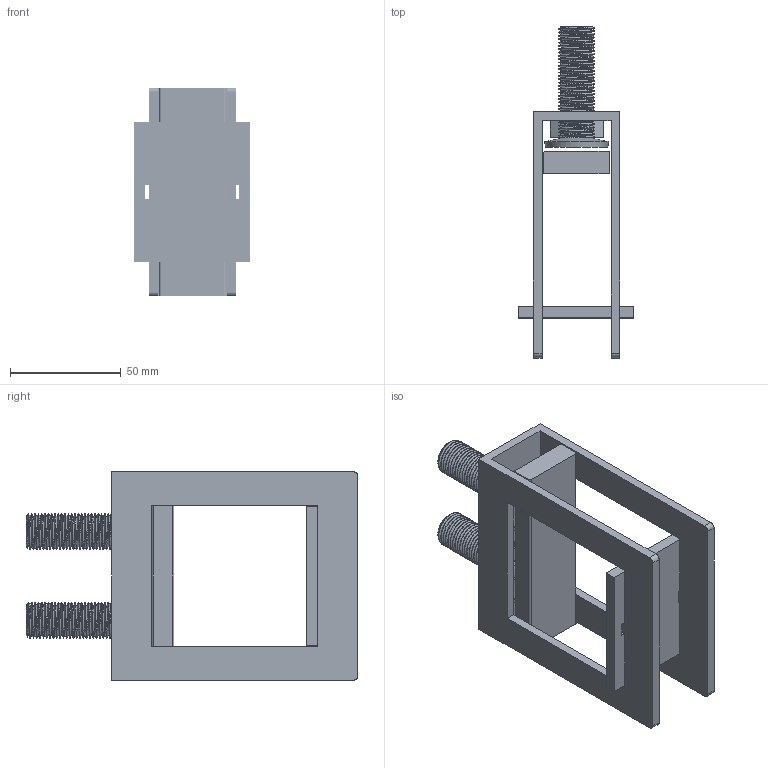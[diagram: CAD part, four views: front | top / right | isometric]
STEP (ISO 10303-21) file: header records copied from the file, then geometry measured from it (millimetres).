
FILE_DESCRIPTION (( 'STEP AP203' ), '1' );
FILE_NAME ('54907.STEP', '2021-08-16T00:50:24', ( '' ), ( '' ), 'SwSTEP 2.0', 'SolidWorks 2017', '' );
FILE_SCHEMA (( 'CONFIG_CONTROL_DESIGN' ));
Products named in the file (2): 54907
Bounding box: 52 x 149.6 x 94 mm (x, y, z)
Volume: 122692.5 mm3; surface area: 64243.4 mm2
Topology: 7 solids, 7 shells, 358 faces, 1210 edges, 874 vertices
Faces by surface type: plane 186, bspline 134, cylinder 20, cone 14, torus 4
Full cylindrical faces by diameter (mm): 8.8 x2, 9.8 x2
Entity records: 54014 total; most frequent: CARTESIAN_POINT 44828, ORIENTED_EDGE 2356, EDGE_CURVE 1178, DIRECTION 1103, VERTEX_POINT 862, B_SPLINE_CURVE_WITH_KNOTS 574, VECTOR 557, LINE 557
